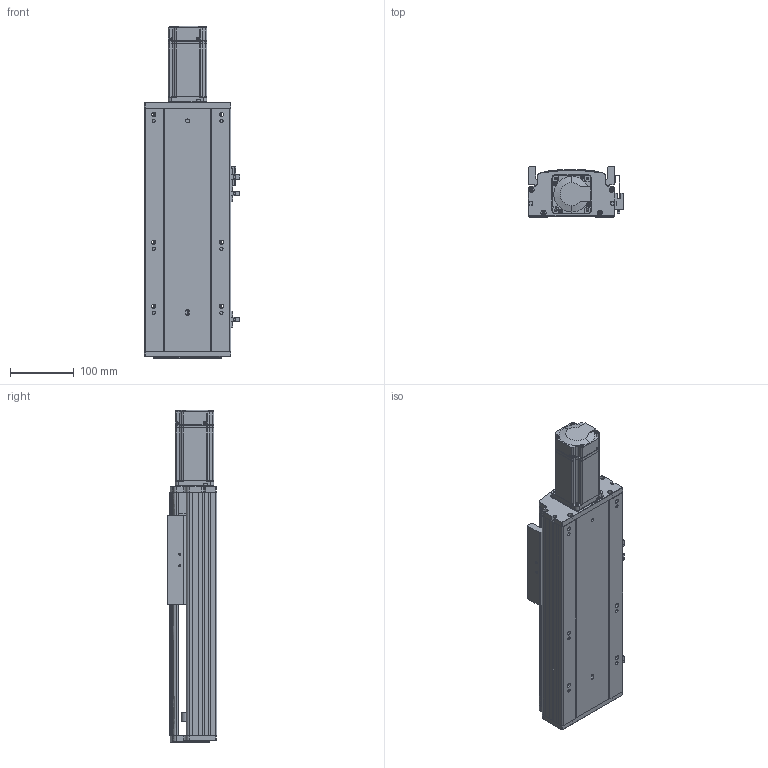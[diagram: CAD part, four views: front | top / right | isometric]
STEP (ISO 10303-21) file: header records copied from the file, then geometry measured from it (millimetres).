
FILE_DESCRIPTION (( 'STEP AP203' ), '1' );
FILE_NAME ('RY140Q-L2010-700-MK.SLDASM_0150.step', '2021-05-27T03:21:18', ( '盈信电脑' ), ( '东莞市道滘镇水果街19号' ), 'SwSTEP 2.0', 'SolidWorks 2016', '' );
FILE_SCHEMA (( 'CONFIG_CONTROL_DESIGN' ));
Length unit declared in the file: millimetre
Products named in the file (14): RY140Q-L2010-700-MK.SLDASM_0150; 侂狟400W侜督萇儂; 滅袉蝶18-15; RY140Q臏賑輸(20佪裝-J); RY140Q-700-MK倰第菁釱_0150; RY140Q萇儂傷盓傅釱FK12(80.5酗M5); RY140Q-700-MK倰第奻裔啣_0150; RY140綴裔啣; 15; 覜茼ん672; RY120外置感应片(140共用）; 鞠褒坶踡蹟譫BK12 ; 滅袉蝶18-10; RY140ヶ裔啣
Assembly tree (16 placements, depth 3):
  RY140Q-L2010-700-MK.SLDASM_0150
    RY140Q-700-MK倰第菁釱_0150
    RY140Q臏賑輸(20佪裝-J)
    RY140Q-700-MK倰第奻裔啣_0150
    RY140ヶ裔啣
    侂狟400W侜督萇儂
      15
    鞠褒坶踡蹟譫BK12 
    RY140綴裔啣
    覜茼ん672  x3
    RY120外置感应片(140共用）
    RY140Q萇儂傷盓傅釱FK12(80.5酗M5)
    滅袉蝶18-10
    滅袉蝶18-15  x2
Bounding box: 148.7 x 78 x 519.5 mm (x, y, z)
Volume: 1811919.6 mm3; surface area: 576543.1 mm2
Topology: 15 solids, 15 shells, 1957 faces, 5372 edges, 3463 vertices
Faces by surface type: plane 1074, cylinder 642, cone 156, bspline 85
Entity records: 64663 total; most frequent: CARTESIAN_POINT 15552, ORIENTED_EDGE 10124, DIRECTION 9584, EDGE_CURVE 5062, LINE 3344, VECTOR 3344, VERTEX_POINT 3323, AXIS2_PLACEMENT_3D 3120
